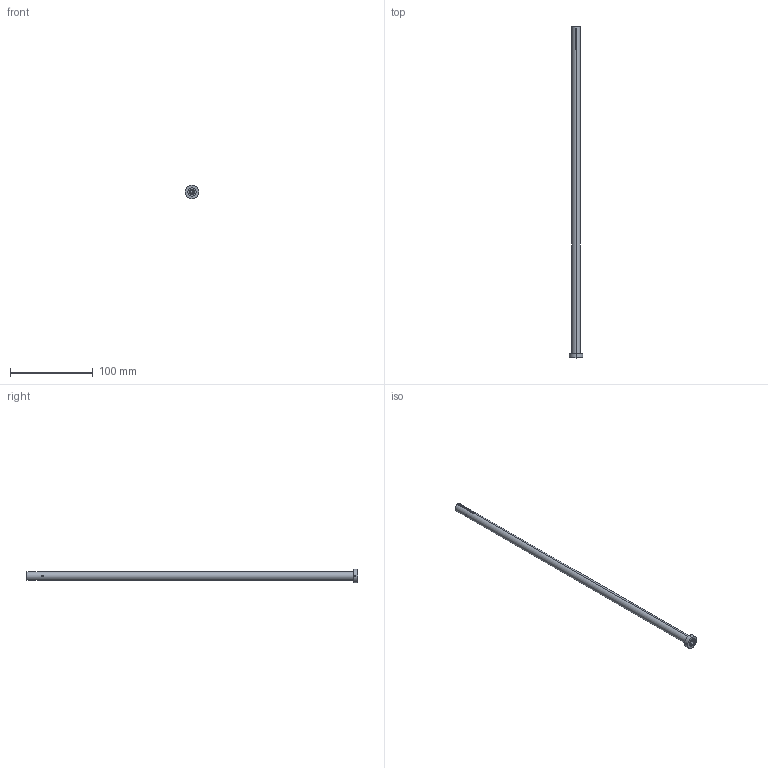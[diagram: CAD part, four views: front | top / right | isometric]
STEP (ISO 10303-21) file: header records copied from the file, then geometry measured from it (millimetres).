
FILE_DESCRIPTION (( 'STEP AP203' ), '1' );
FILE_NAME ('SGDE-1008x400.STEP', '2017-01-10T15:52:03', ( 'Balzi' ), ( '' ), 'SwSTEP 2.0', 'SolidWorks 2016', '' );
FILE_SCHEMA (( 'CONFIG_CONTROL_DESIGN' ));
Length unit declared in the file: millimetre
Products named in the file (1): SGDE-1008x400
Bounding box: 16 x 400.8 x 16 mm (x, y, z)
Volume: 20575.2 mm3; surface area: 21463.4 mm2
Topology: 1 solids, 1 shells, 84 faces, 234 edges, 154 vertices
Faces by surface type: cylinder 48, plane 32, cone 4
Entity records: 3309 total; most frequent: CARTESIAN_POINT 1073, ORIENTED_EDGE 468, DIRECTION 422, EDGE_CURVE 234, AXIS2_PLACEMENT_3D 155, VERTEX_POINT 154, VECTOR 112, LINE 112
